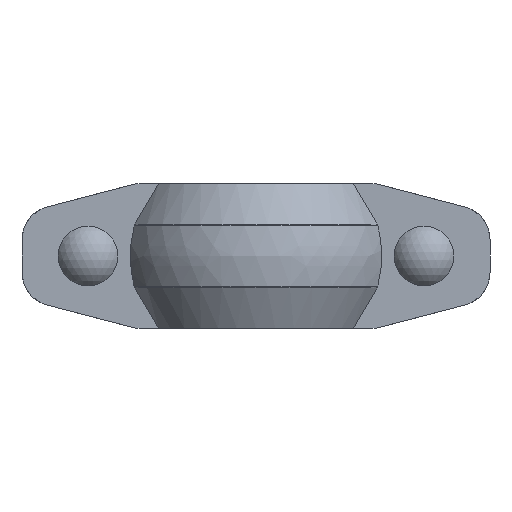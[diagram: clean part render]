
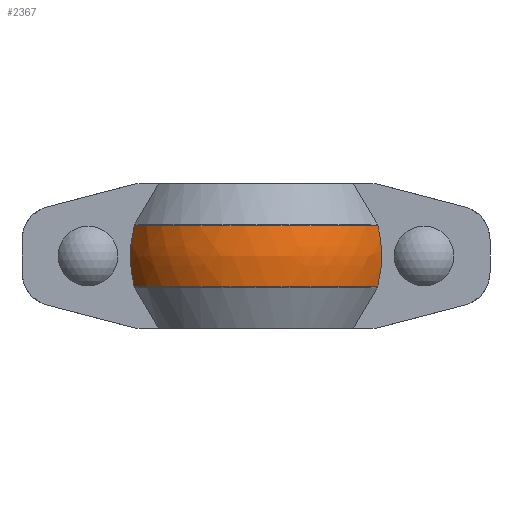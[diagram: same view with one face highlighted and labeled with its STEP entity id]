
A CAD part, front view. The second image highlights one B-rep face of the part: STEP entity #2367.
In plain terms, the highlighted free-form (B-spline) face has degree [2, 2] with [3, 5] control points.
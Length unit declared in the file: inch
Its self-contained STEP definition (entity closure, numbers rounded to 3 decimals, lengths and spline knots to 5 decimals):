
#45=(
BOUNDED_SURFACE()
B_SPLINE_SURFACE(2,2,((#4627,#4628,#4629,#4630,#4631),(#4632,#4633,#4634,
#4635,#4636),(#4637,#4638,#4639,#4640,#4641)),.UNSPECIFIED.,.F.,.F.,.F.)
B_SPLINE_SURFACE_WITH_KNOTS((3,3),(3,2,3),(-0.23148,0.23148),
(0.46176,1.5708,2.67984),.UNSPECIFIED.)
GEOMETRIC_REPRESENTATION_ITEM()
RATIONAL_B_SPLINE_SURFACE(((1.,0.85,1.,0.85,1.),
(0.973,0.827,0.973,0.827,
0.973),(1.,0.85,1.,0.85,1.)))
REPRESENTATION_ITEM('')
SURFACE()
);
#80=B_SPLINE_CURVE_WITH_KNOTS('',3,(#4549,#4550,#4551,#4552,#4553,#4554,
#4555,#4556,#4557,#4558),.UNSPECIFIED.,.F.,.F.,(4,2,2,2,4),(19.31597,
19.71823,20.37477,21.0313,21.43357),
 .UNSPECIFIED.);
#83=B_SPLINE_CURVE_WITH_KNOTS('',3,(#4592,#4593,#4594,#4595,#4596,#4597,
#4598,#4599,#4600,#4601),.UNSPECIFIED.,.F.,.F.,(4,2,2,2,4),(5.73279,
6.13505,6.79159,7.44813,7.85039),
 .UNSPECIFIED.);
#322=FACE_OUTER_BOUND('',#459,.T.);
#459=EDGE_LOOP('',(#2056,#2057,#2058,#2059));
#881=CIRCLE('',#2618,2.01372);
#885=CIRCLE('',#2624,2.01372);
#1088=VERTEX_POINT('',#4541);
#1089=VERTEX_POINT('',#4548);
#1095=VERTEX_POINT('',#4584);
#1096=VERTEX_POINT('',#4591);
#1401=EDGE_CURVE('',#1089,#1088,#80,.T.);
#1411=EDGE_CURVE('',#1096,#1095,#83,.T.);
#1418=EDGE_CURVE('',#1096,#1088,#881,.T.);
#1422=EDGE_CURVE('',#1089,#1095,#885,.T.);
#2056=ORIENTED_EDGE('',*,*,#1411,.T.);
#2057=ORIENTED_EDGE('',*,*,#1422,.F.);
#2058=ORIENTED_EDGE('',*,*,#1401,.T.);
#2059=ORIENTED_EDGE('',*,*,#1418,.F.);
#2367=ADVANCED_FACE('',(#322),#45,.F.);
#2618=AXIS2_PLACEMENT_3D('',#4621,#3262,#3263);
#2624=AXIS2_PLACEMENT_3D('',#4642,#3274,#3275);
#3262=DIRECTION('center_axis',(0.,0.,1.));
#3263=DIRECTION('ref_axis',(0.,1.,0.));
#3274=DIRECTION('center_axis',(0.,0.,-1.));
#3275=DIRECTION('ref_axis',(0.,1.,0.));
#4541=CARTESIAN_POINT('',(1.79127,-0.92,0.4411));
#4548=CARTESIAN_POINT('',(1.79127,-0.92,-0.4411));
#4549=CARTESIAN_POINT('Ctrl Pts',(1.79127,-0.92,-0.4411));
#4550=CARTESIAN_POINT('Ctrl Pts',(1.80559,-0.92,-0.38706));
#4551=CARTESIAN_POINT('Ctrl Pts',(1.8177,-0.92,-0.33052));
#4552=CARTESIAN_POINT('Ctrl Pts',(1.84184,-0.92,-0.18049));
#4553=CARTESIAN_POINT('Ctrl Pts',(1.84874,-0.92,-0.08616));
#4554=CARTESIAN_POINT('Ctrl Pts',(1.84874,-0.92,0.08616));
#4555=CARTESIAN_POINT('Ctrl Pts',(1.84184,-0.92,0.18049));
#4556=CARTESIAN_POINT('Ctrl Pts',(1.8177,-0.92,0.33052));
#4557=CARTESIAN_POINT('Ctrl Pts',(1.80559,-0.92,0.38706));
#4558=CARTESIAN_POINT('Ctrl Pts',(1.79127,-0.92,0.4411));
#4584=CARTESIAN_POINT('',(-1.79127,-0.92,-0.4411));
#4591=CARTESIAN_POINT('',(-1.79127,-0.92,0.4411));
#4592=CARTESIAN_POINT('Ctrl Pts',(-1.79127,-0.92,0.4411));
#4593=CARTESIAN_POINT('Ctrl Pts',(-1.80559,-0.92,0.38706));
#4594=CARTESIAN_POINT('Ctrl Pts',(-1.8177,-0.92,0.33052));
#4595=CARTESIAN_POINT('Ctrl Pts',(-1.84184,-0.92,0.18049));
#4596=CARTESIAN_POINT('Ctrl Pts',(-1.84874,-0.92,0.08616));
#4597=CARTESIAN_POINT('Ctrl Pts',(-1.84874,-0.92,-0.08616));
#4598=CARTESIAN_POINT('Ctrl Pts',(-1.84184,-0.92,-0.18049));
#4599=CARTESIAN_POINT('Ctrl Pts',(-1.8177,-0.92,-0.33052));
#4600=CARTESIAN_POINT('Ctrl Pts',(-1.80559,-0.92,-0.38706));
#4601=CARTESIAN_POINT('Ctrl Pts',(-1.79127,-0.92,-0.4411));
#4621=CARTESIAN_POINT('Origin',(0.,0.,0.4411));
#4627=CARTESIAN_POINT('Ctrl Pts',(1.80283,-0.89715,0.4411));
#4628=CARTESIAN_POINT('Ctrl Pts',(1.24718,-2.01372,0.4411));
#4629=CARTESIAN_POINT('Ctrl Pts',(0.,-2.01372,
0.4411));
#4630=CARTESIAN_POINT('Ctrl Pts',(-1.24718,-2.01372,0.4411));
#4631=CARTESIAN_POINT('Ctrl Pts',(-1.80283,-0.89715,
0.4411));
#4632=CARTESIAN_POINT('Ctrl Pts',(1.8959,-0.94347,0.));
#4633=CARTESIAN_POINT('Ctrl Pts',(1.31157,-2.11769,0.));
#4634=CARTESIAN_POINT('Ctrl Pts',(0.,-2.11769,
0.));
#4635=CARTESIAN_POINT('Ctrl Pts',(-1.31157,-2.11769,0.));
#4636=CARTESIAN_POINT('Ctrl Pts',(-1.8959,-0.94347,
0.));
#4637=CARTESIAN_POINT('Ctrl Pts',(1.80283,-0.89715,-0.4411));
#4638=CARTESIAN_POINT('Ctrl Pts',(1.24718,-2.01372,-0.4411));
#4639=CARTESIAN_POINT('Ctrl Pts',(0.,-2.01372,
-0.4411));
#4640=CARTESIAN_POINT('Ctrl Pts',(-1.24718,-2.01372,-0.4411));
#4641=CARTESIAN_POINT('Ctrl Pts',(-1.80283,-0.89715,
-0.4411));
#4642=CARTESIAN_POINT('Origin',(0.,0.,-0.4411));
